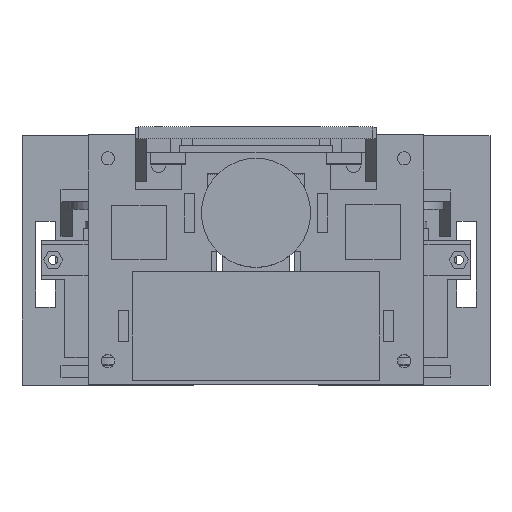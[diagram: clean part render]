
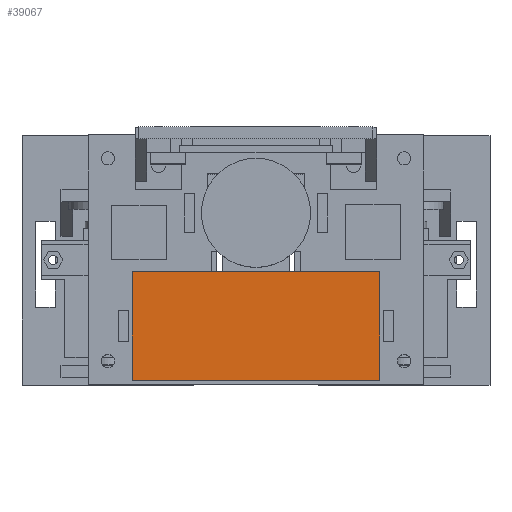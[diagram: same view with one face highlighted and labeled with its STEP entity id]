
A CAD part, top view. The second image highlights one B-rep face of the part: STEP entity #39067.
In plain terms, the highlighted planar face has unit normal (0, 0, 1).
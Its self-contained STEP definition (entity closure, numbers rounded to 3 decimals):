
#38753 = VERTEX_POINT('',#38754);
#38754 = CARTESIAN_POINT('',(-31.695,-30.97,111.6));
#38761 = PLANE('',#38762);
#38762 = AXIS2_PLACEMENT_3D('',#38763,#38764,#38765);
#38763 = CARTESIAN_POINT('',(-31.695,-30.97,99.6));
#38764 = DIRECTION('',(1.,0.,0.));
#38765 = DIRECTION('',(0.,0.,1.));
#38773 = PLANE('',#38774);
#38774 = AXIS2_PLACEMENT_3D('',#38775,#38776,#38777);
#38775 = CARTESIAN_POINT('',(-31.695,-30.97,99.6));
#38776 = DIRECTION('',(0.,1.,0.));
#38777 = DIRECTION('',(0.,0.,1.));
#38814 = VERTEX_POINT('',#38815);
#38815 = CARTESIAN_POINT('',(-31.695,-3.03,111.6));
#38829 = PLANE('',#38830);
#38830 = AXIS2_PLACEMENT_3D('',#38831,#38832,#38833);
#38831 = CARTESIAN_POINT('',(-31.695,-3.03,99.6));
#38832 = DIRECTION('',(0.,1.,0.));
#38833 = DIRECTION('',(0.,0.,1.));
#38841 = EDGE_CURVE('',#38753,#38814,#38842,.T.);
#38842 = SURFACE_CURVE('',#38843,(#38847,#38854),.PCURVE_S1.);
#38843 = LINE('',#38844,#38845);
#38844 = CARTESIAN_POINT('',(-31.695,-30.97,111.6));
#38845 = VECTOR('',#38846,1.);
#38846 = DIRECTION('',(0.,1.,0.));
#38847 = PCURVE('',#38761,#38848);
#38848 = DEFINITIONAL_REPRESENTATION('',(#38849),#38853);
#38849 = LINE('',#38850,#38851);
#38850 = CARTESIAN_POINT('',(12.,0.));
#38851 = VECTOR('',#38852,1.);
#38852 = DIRECTION('',(0.,-1.));
#38853 = ( GEOMETRIC_REPRESENTATION_CONTEXT(2) 
PARAMETRIC_REPRESENTATION_CONTEXT() REPRESENTATION_CONTEXT('2D SPACE',''
  ) );
#38854 = PCURVE('',#38855,#38860);
#38855 = PLANE('',#38856);
#38856 = AXIS2_PLACEMENT_3D('',#38857,#38858,#38859);
#38857 = CARTESIAN_POINT('',(-31.695,-30.97,111.6));
#38858 = DIRECTION('',(0.,0.,1.));
#38859 = DIRECTION('',(1.,0.,0.));
#38860 = DEFINITIONAL_REPRESENTATION('',(#38861),#38865);
#38861 = LINE('',#38862,#38863);
#38862 = CARTESIAN_POINT('',(0.,0.));
#38863 = VECTOR('',#38864,1.);
#38864 = DIRECTION('',(0.,1.));
#38865 = ( GEOMETRIC_REPRESENTATION_CONTEXT(2) 
PARAMETRIC_REPRESENTATION_CONTEXT() REPRESENTATION_CONTEXT('2D SPACE',''
  ) );
#38873 = VERTEX_POINT('',#38874);
#38874 = CARTESIAN_POINT('',(31.695,-30.97,111.6));
#38881 = PLANE('',#38882);
#38882 = AXIS2_PLACEMENT_3D('',#38883,#38884,#38885);
#38883 = CARTESIAN_POINT('',(31.695,-30.97,99.6));
#38884 = DIRECTION('',(1.,0.,0.));
#38885 = DIRECTION('',(0.,0.,1.));
#38924 = VERTEX_POINT('',#38925);
#38925 = CARTESIAN_POINT('',(31.695,-3.03,111.6));
#38946 = EDGE_CURVE('',#38873,#38924,#38947,.T.);
#38947 = SURFACE_CURVE('',#38948,(#38952,#38959),.PCURVE_S1.);
#38948 = LINE('',#38949,#38950);
#38949 = CARTESIAN_POINT('',(31.695,-30.97,111.6));
#38950 = VECTOR('',#38951,1.);
#38951 = DIRECTION('',(0.,1.,0.));
#38952 = PCURVE('',#38881,#38953);
#38953 = DEFINITIONAL_REPRESENTATION('',(#38954),#38958);
#38954 = LINE('',#38955,#38956);
#38955 = CARTESIAN_POINT('',(12.,0.));
#38956 = VECTOR('',#38957,1.);
#38957 = DIRECTION('',(0.,-1.));
#38958 = ( GEOMETRIC_REPRESENTATION_CONTEXT(2) 
PARAMETRIC_REPRESENTATION_CONTEXT() REPRESENTATION_CONTEXT('2D SPACE',''
  ) );
#38959 = PCURVE('',#38855,#38960);
#38960 = DEFINITIONAL_REPRESENTATION('',(#38961),#38965);
#38961 = LINE('',#38962,#38963);
#38962 = CARTESIAN_POINT('',(63.39,0.));
#38963 = VECTOR('',#38964,1.);
#38964 = DIRECTION('',(0.,1.));
#38965 = ( GEOMETRIC_REPRESENTATION_CONTEXT(2) 
PARAMETRIC_REPRESENTATION_CONTEXT() REPRESENTATION_CONTEXT('2D SPACE',''
  ) );
#38992 = EDGE_CURVE('',#38753,#38873,#38993,.T.);
#38993 = SURFACE_CURVE('',#38994,(#38998,#39005),.PCURVE_S1.);
#38994 = LINE('',#38995,#38996);
#38995 = CARTESIAN_POINT('',(-31.695,-30.97,111.6));
#38996 = VECTOR('',#38997,1.);
#38997 = DIRECTION('',(1.,0.,0.));
#38998 = PCURVE('',#38773,#38999);
#38999 = DEFINITIONAL_REPRESENTATION('',(#39000),#39004);
#39000 = LINE('',#39001,#39002);
#39001 = CARTESIAN_POINT('',(12.,0.));
#39002 = VECTOR('',#39003,1.);
#39003 = DIRECTION('',(0.,1.));
#39004 = ( GEOMETRIC_REPRESENTATION_CONTEXT(2) 
PARAMETRIC_REPRESENTATION_CONTEXT() REPRESENTATION_CONTEXT('2D SPACE',''
  ) );
#39005 = PCURVE('',#38855,#39006);
#39006 = DEFINITIONAL_REPRESENTATION('',(#39007),#39011);
#39007 = LINE('',#39008,#39009);
#39008 = CARTESIAN_POINT('',(0.,0.));
#39009 = VECTOR('',#39010,1.);
#39010 = DIRECTION('',(1.,0.));
#39011 = ( GEOMETRIC_REPRESENTATION_CONTEXT(2) 
PARAMETRIC_REPRESENTATION_CONTEXT() REPRESENTATION_CONTEXT('2D SPACE',''
  ) );
#39039 = EDGE_CURVE('',#38814,#38924,#39040,.T.);
#39040 = SURFACE_CURVE('',#39041,(#39045,#39052),.PCURVE_S1.);
#39041 = LINE('',#39042,#39043);
#39042 = CARTESIAN_POINT('',(-31.695,-3.03,111.6));
#39043 = VECTOR('',#39044,1.);
#39044 = DIRECTION('',(1.,0.,0.));
#39045 = PCURVE('',#38829,#39046);
#39046 = DEFINITIONAL_REPRESENTATION('',(#39047),#39051);
#39047 = LINE('',#39048,#39049);
#39048 = CARTESIAN_POINT('',(12.,0.));
#39049 = VECTOR('',#39050,1.);
#39050 = DIRECTION('',(0.,1.));
#39051 = ( GEOMETRIC_REPRESENTATION_CONTEXT(2) 
PARAMETRIC_REPRESENTATION_CONTEXT() REPRESENTATION_CONTEXT('2D SPACE',''
  ) );
#39052 = PCURVE('',#38855,#39053);
#39053 = DEFINITIONAL_REPRESENTATION('',(#39054),#39058);
#39054 = LINE('',#39055,#39056);
#39055 = CARTESIAN_POINT('',(0.,27.94));
#39056 = VECTOR('',#39057,1.);
#39057 = DIRECTION('',(1.,0.));
#39058 = ( GEOMETRIC_REPRESENTATION_CONTEXT(2) 
PARAMETRIC_REPRESENTATION_CONTEXT() REPRESENTATION_CONTEXT('2D SPACE',''
  ) );
#39067 = ADVANCED_FACE('',(#39068),#38855,.T.);
#39068 = FACE_BOUND('',#39069,.T.);
#39069 = EDGE_LOOP('',(#39070,#39071,#39072,#39073));
#39070 = ORIENTED_EDGE('',*,*,#38841,.F.);
#39071 = ORIENTED_EDGE('',*,*,#38992,.T.);
#39072 = ORIENTED_EDGE('',*,*,#38946,.T.);
#39073 = ORIENTED_EDGE('',*,*,#39039,.F.);
